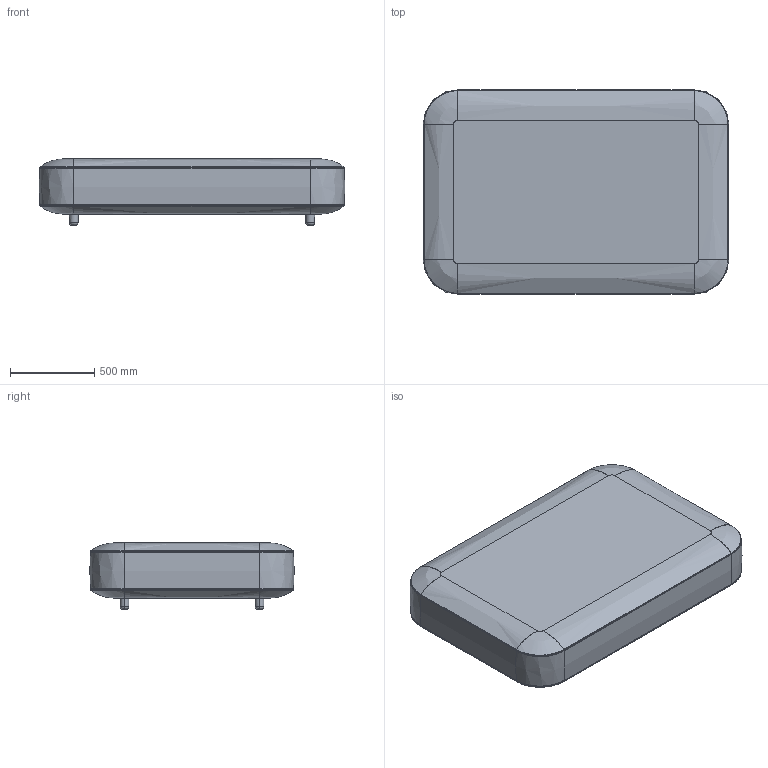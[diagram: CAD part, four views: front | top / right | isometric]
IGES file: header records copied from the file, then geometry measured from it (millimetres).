
Start section: SolidWorks IGES file using analytic representation for surfaces
Global section: file name: C:\Users\Usuario\Dropbox\Viccarbe\ARCHIVOS ENVIAR SILVIA\3D\Common\3- CO180R (180x120)\CO180R.IGS; native system: SolidWorks 2013; preprocessor: SolidWorks 2013; author: Usuario; date: 130514.123923; units: millimetre
Bounding box: 1810 x 1210 x 395 mm (x, y, z)
Surface area: 14205586.2 mm2 (no closed solid volume)
Topology: 0 solids, 0 shells, 118 faces, 1245 edges, 1245 vertices
Faces by surface type: bspline 90, revolution 28
